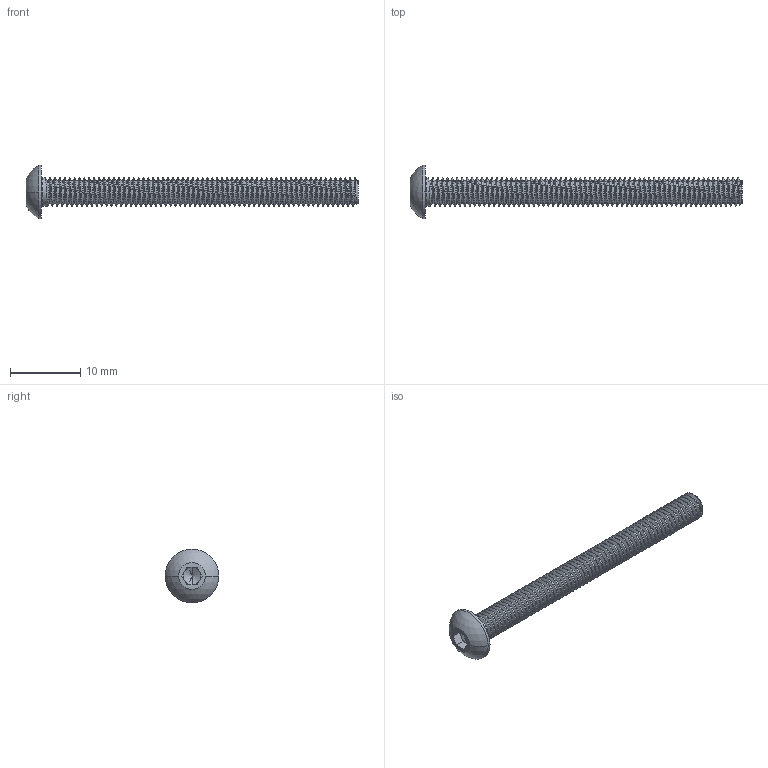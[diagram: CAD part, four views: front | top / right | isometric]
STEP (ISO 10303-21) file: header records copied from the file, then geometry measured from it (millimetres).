
FILE_DESCRIPTION (( 'STEP AP203' ), '1' );
FILE_NAME ('M4x45_ISO7380.STEP', '2025-11-17T10:04:53', ( '' ), ( '' ), 'SwSTEP 2.0', 'SolidWorks 2022', '' );
FILE_SCHEMA (( 'CONFIG_CONTROL_DESIGN' ));
Length unit declared in the file: millimetre
Products named in the file (1): M4x45_ISO7380
Bounding box: 47.2 x 7.6 x 7.6 mm (x, y, z)
Volume: 515.7 mm3; surface area: 944.5 mm2
Topology: 1 solids, 1 shells, 158 faces, 451 edges, 295 vertices
Faces by surface type: cylinder 130, plane 16, cone 5, bspline 3, torus 2, sphere 2
Entity records: 12062 total; most frequent: CARTESIAN_POINT 8650, ORIENTED_EDGE 898, DIRECTION 522, EDGE_CURVE 449, VERTEX_POINT 295, AXIS2_PLACEMENT_3D 182, EDGE_LOOP 160, FACE_OUTER_BOUND 158
